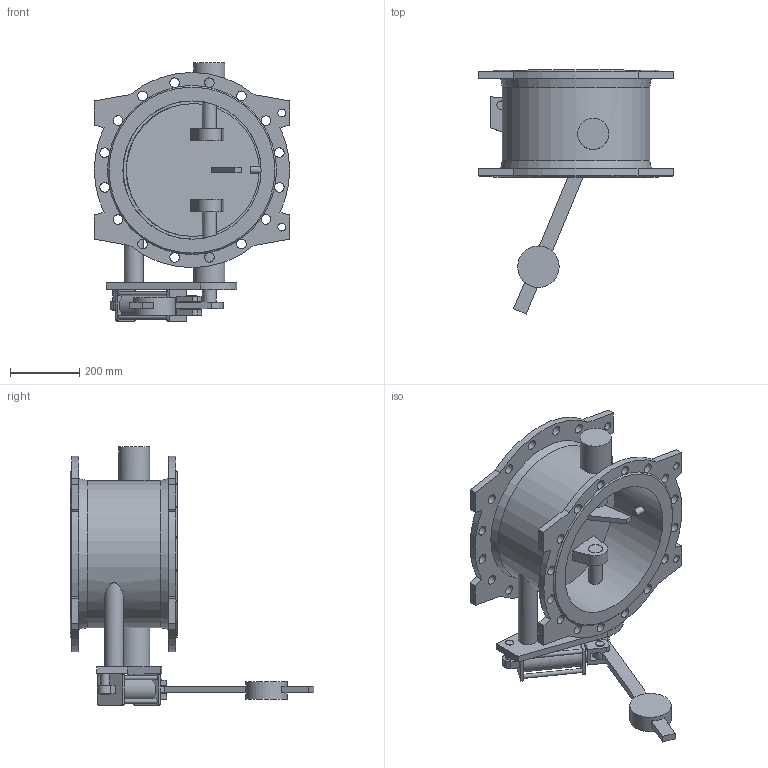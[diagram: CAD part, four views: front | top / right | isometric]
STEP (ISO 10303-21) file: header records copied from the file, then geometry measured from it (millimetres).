
FILE_DESCRIPTION(('STEP AP203'), '1');
FILE_NAME('Êëàïàí 015F.PV DN400 PN10 ñ ïðîòèâîâåñîì ñ äåìïôåðîì', '', ('UNSPECIFIED'), ('UNSPECIFIED'), 'ASCON STEP Converter 1.6', 'ASCON Math Kernel', '');
FILE_SCHEMA(('CONFIG_CONTROL_DESIGN'));
Length unit declared in the file: millimetre
Bounding box: 565 x 705 x 747 mm (x, y, z)
Volume: 17492430.6 mm3; surface area: 2160123.1 mm2
Topology: 1 solids, 1 shells, 199 faces, 592 edges, 392 vertices
Faces by surface type: plane 100, cylinder 90, cone 4, extrusion 2, torus 2, bspline 1
Full cylindrical faces by diameter (mm): 12 x4, 14 x1, 18 x2, 20 x1, 23 x4, 24 x7, 28 x32, 35 x1, 40 x3, 42 x2, 55 x1, 70 x1, 90 x2, 120 x1, 400 x1, 426 x1
Entity records: 11250 total; most frequent: CARTESIAN_POINT 4264, DIRECTION 1102, ORIENTED_EDGE 1032, EDGE_CURVE 516, AXIS2_PLACEMENT_3D 443, VERTEX_POINT 391, EDGE_LOOP 365, FACE_BOUND 259
